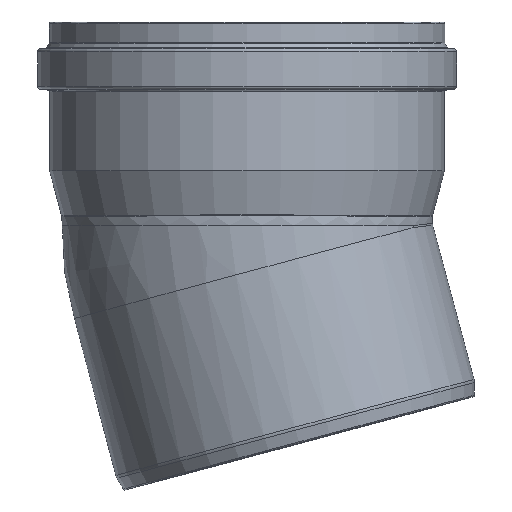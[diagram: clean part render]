
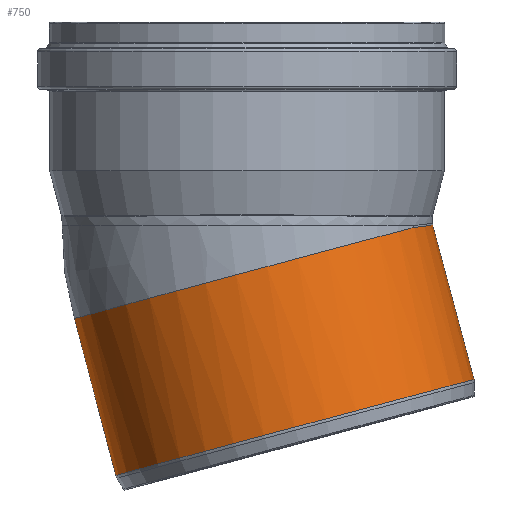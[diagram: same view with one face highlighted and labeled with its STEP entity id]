
A CAD part, top view. The second image highlights one B-rep face of the part: STEP entity #750.
In plain terms, the highlighted cylindrical face has radius 250.25 mm (diameter 500.5 mm), a full revolution.
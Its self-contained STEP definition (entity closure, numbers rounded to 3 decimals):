
#28=ELLIPSE('',#842,252.585,250.25);
#29=ELLIPSE('',#843,252.585,250.25);
#33=CYLINDRICAL_SURFACE('',#844,250.25);
#47=LINE('',#1390,#68);
#68=VECTOR('',#1034,250.25);
#103=FACE_OUTER_BOUND('',#148,.T.);
#148=EDGE_LOOP('',(#538,#539,#540,#541,#542,#543,#544));
#209=CIRCLE('',#845,250.25);
#210=CIRCLE('',#846,250.25);
#211=CIRCLE('',#847,250.25);
#302=VERTEX_POINT('',#1342);
#303=VERTEX_POINT('',#1362);
#304=VERTEX_POINT('',#1364);
#305=VERTEX_POINT('',#1386);
#306=VERTEX_POINT('',#1387);
#391=EDGE_CURVE('',#302,#303,#28,.T.);
#392=EDGE_CURVE('',#303,#304,#29,.T.);
#394=EDGE_CURVE('',#305,#306,#209,.T.);
#395=EDGE_CURVE('',#306,#305,#210,.T.);
#396=EDGE_CURVE('',#306,#303,#47,.T.);
#397=EDGE_CURVE('',#302,#304,#211,.T.);
#538=ORIENTED_EDGE('',*,*,#394,.F.);
#539=ORIENTED_EDGE('',*,*,#395,.F.);
#540=ORIENTED_EDGE('',*,*,#396,.T.);
#541=ORIENTED_EDGE('',*,*,#391,.F.);
#542=ORIENTED_EDGE('',*,*,#397,.T.);
#543=ORIENTED_EDGE('',*,*,#392,.F.);
#544=ORIENTED_EDGE('',*,*,#396,.F.);
#750=ADVANCED_FACE('',(#103),#33,.T.);
#842=AXIS2_PLACEMENT_3D('',#1363,#1024,#1025);
#843=AXIS2_PLACEMENT_3D('',#1365,#1026,#1027);
#844=AXIS2_PLACEMENT_3D('',#1385,#1028,#1029);
#845=AXIS2_PLACEMENT_3D('',#1388,#1030,#1031);
#846=AXIS2_PLACEMENT_3D('',#1389,#1032,#1033);
#847=AXIS2_PLACEMENT_3D('',#1391,#1035,#1036);
#1024=DIRECTION('center_axis',(-0.125,0.992,0.));
#1025=DIRECTION('ref_axis',(0.992,0.125,0.));
#1026=DIRECTION('center_axis',(-0.125,0.992,0.));
#1027=DIRECTION('ref_axis',(0.992,0.125,0.));
#1028=DIRECTION('center_axis',(0.259,-0.966,0.));
#1029=DIRECTION('ref_axis',(-0.966,-0.259,0.));
#1030=DIRECTION('center_axis',(0.259,-0.966,0.));
#1031=DIRECTION('ref_axis',(0.966,0.259,0.));
#1032=DIRECTION('center_axis',(0.259,-0.966,0.));
#1033=DIRECTION('ref_axis',(0.966,0.259,0.));
#1034=DIRECTION('',(-0.259,0.966,0.));
#1035=DIRECTION('center_axis',(0.259,-0.966,0.));
#1036=DIRECTION('ref_axis',(0.966,0.259,0.));
#1342=CARTESIAN_POINT('',(225.556,28.51,109.032));
#1362=CARTESIAN_POINT('',(250.591,31.674,0.));
#1363=CARTESIAN_POINT('Origin',(0.,0.,
0.));
#1364=CARTESIAN_POINT('',(225.556,28.51,-109.032));
#1365=CARTESIAN_POINT('Origin',(0.,0.,
0.));
#1385=CARTESIAN_POINT('Origin',(36.33,-135.584,0.));
#1386=CARTESIAN_POINT('',(64.677,-241.379,250.25));
#1387=CARTESIAN_POINT('',(306.4,-176.609,0.));
#1388=CARTESIAN_POINT('Origin',(64.677,-241.379,0.));
#1389=CARTESIAN_POINT('Origin',(64.677,-241.379,0.));
#1390=CARTESIAN_POINT('',(278.052,-70.814,0.));
#1391=CARTESIAN_POINT('Origin',(7.982,-29.789,0.));
